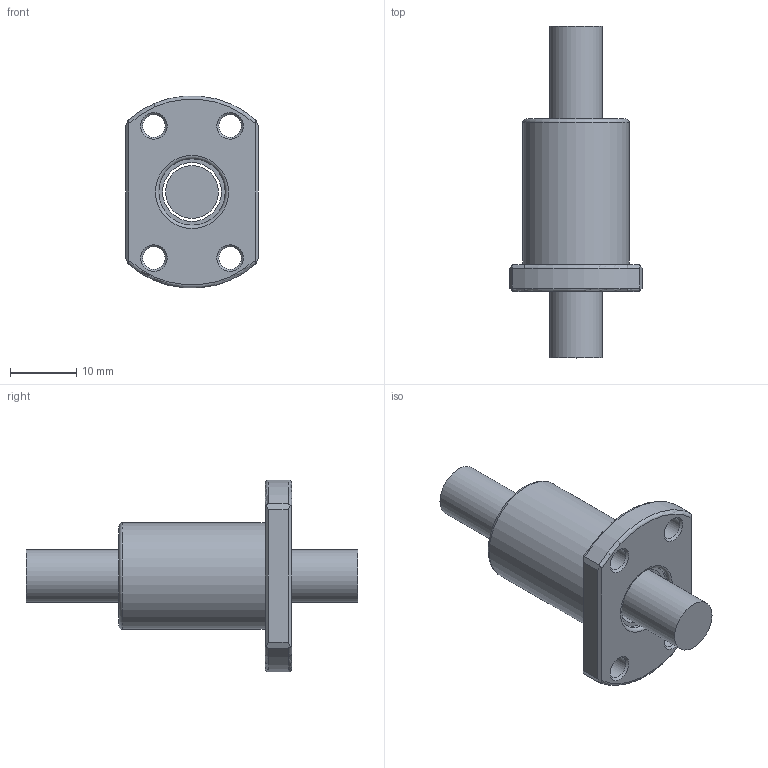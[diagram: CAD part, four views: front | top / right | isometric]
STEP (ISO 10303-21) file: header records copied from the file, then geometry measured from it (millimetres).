
FILE_DESCRIPTION(/* description */ (''),/* implementation_level */ '2;1');
FILE_NAME(/* name */ '082.5.prt.step',/* time_stamp */ '2008-12-05T09:37:59+08:00',/* author */ (''),/* organization */ (''),/* preprocessor_version */ 'ST-DEVELOPER v11',/* originating_system */ 'SIEMENS UGS NX 6.0',/* authorisation */ '');
FILE_SCHEMA (('AUTOMOTIVE_DESIGN { 1 0 10303 214 1 1 1 1 }'));
Length unit declared in the file: millimetre
Products named in the file (1): 082.5
Bounding box: 20 x 50 x 28.91 mm (x, y, z)
Volume: 7220.4 mm3; surface area: 4480.2 mm2
Topology: 2 solids, 2 shells, 43 faces, 100 edges, 64 vertices
Faces by surface type: plane 17, cylinder 11, cone 8, torus 7
Full cylindrical faces by diameter (mm): 3.4 x4, 7.95 x1, 8.85 x1, 10 x2, 16 x1
Entity records: 1334 total; most frequent: CARTESIAN_POINT 398, DIRECTION 186, ORIENTED_EDGE 154, AXIS2_PLACEMENT_3D 81, EDGE_CURVE 77, EDGE_LOOP 76, VERTEX_POINT 61, FACE_BOUND 58
